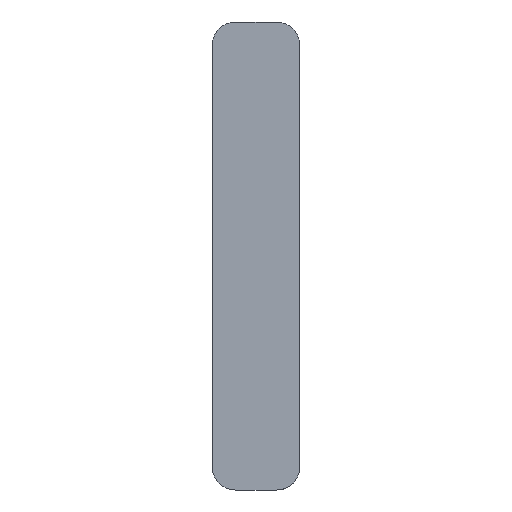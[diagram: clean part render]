
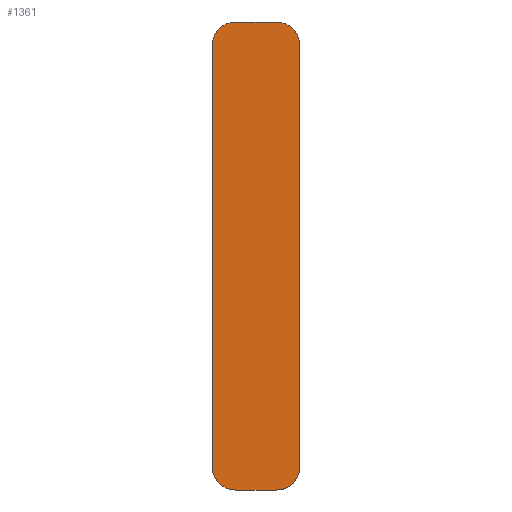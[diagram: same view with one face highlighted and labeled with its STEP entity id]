
A CAD part, left-side view. The second image highlights one B-rep face of the part: STEP entity #1361.
In plain terms, the highlighted planar face has unit normal (-1, 0, 0).
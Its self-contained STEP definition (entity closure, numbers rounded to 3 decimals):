
#624=PLANE('',#1322);
#630=CIRCLE('',#1291,4.);
#633=CIRCLE('',#1296,4.);
#640=CIRCLE('',#1305,4.);
#641=CIRCLE('',#1309,4.);
#712=ORIENTED_EDGE('',*,*,#908,.F.);
#713=ORIENTED_EDGE('',*,*,#911,.F.);
#714=ORIENTED_EDGE('',*,*,#914,.F.);
#715=ORIENTED_EDGE('',*,*,#917,.F.);
#716=ORIENTED_EDGE('',*,*,#884,.F.);
#717=ORIENTED_EDGE('',*,*,#888,.F.);
#718=ORIENTED_EDGE('',*,*,#892,.F.);
#719=ORIENTED_EDGE('',*,*,#895,.F.);
#772=VECTOR('',#1033,1.);
#776=VECTOR('',#1047,1.);
#785=VECTOR('',#1074,1.);
#789=VECTOR('',#1086,1.);
#807=LINE('',#1166,#772);
#811=LINE('',#1180,#776);
#820=LINE('',#1212,#785);
#824=LINE('',#1223,#789);
#839=VERTEX_POINT('',#1154);
#841=VERTEX_POINT('',#1157);
#843=VERTEX_POINT('',#1163);
#846=VERTEX_POINT('',#1171);
#848=VERTEX_POINT('',#1177);
#860=VERTEX_POINT('',#1203);
#862=VERTEX_POINT('',#1209);
#864=VERTEX_POINT('',#1215);
#884=EDGE_CURVE('',#839,#841,#630,.T.);
#888=EDGE_CURVE('',#843,#839,#807,.T.);
#892=EDGE_CURVE('',#846,#843,#633,.T.);
#895=EDGE_CURVE('',#848,#846,#811,.T.);
#908=EDGE_CURVE('',#860,#848,#640,.T.);
#911=EDGE_CURVE('',#862,#860,#820,.T.);
#914=EDGE_CURVE('',#864,#862,#641,.T.);
#917=EDGE_CURVE('',#841,#864,#824,.T.);
#960=EDGE_LOOP('',(#712,#713,#714,#715,#716,#717,#718,#719));
#1001=FACE_BOUND('',#960,.T.);
#1025=DIRECTION('',(1.,0.,0.));
#1026=DIRECTION('',(0.,0.,-4.));
#1033=DIRECTION('',(0.,-7.,0.));
#1040=DIRECTION('',(1.,0.,0.));
#1041=DIRECTION('',(0.,0.,-4.));
#1047=DIRECTION('',(0.,0.,72.));
#1067=DIRECTION('',(1.,0.,0.));
#1068=DIRECTION('',(0.,0.,-4.));
#1074=DIRECTION('',(0.,7.,0.));
#1079=DIRECTION('',(1.,0.,0.));
#1080=DIRECTION('',(0.,0.,-4.));
#1086=DIRECTION('',(0.,0.,-72.));
#1113=DIRECTION('',(-1.,0.,0.));
#1114=DIRECTION('',(0.,1.,0.));
#1154=CARTESIAN_POINT('',(755.,4.,40.));
#1157=CARTESIAN_POINT('',(755.,0.,36.));
#1158=CARTESIAN_POINT('',(755.,4.,36.));
#1163=CARTESIAN_POINT('',(755.,11.,40.));
#1166=CARTESIAN_POINT('',(755.,11.,40.));
#1171=CARTESIAN_POINT('',(755.,15.,36.));
#1174=CARTESIAN_POINT('',(755.,11.,36.));
#1177=CARTESIAN_POINT('',(755.,15.,-36.));
#1180=CARTESIAN_POINT('',(755.,15.,-36.));
#1203=CARTESIAN_POINT('',(755.,11.,-40.));
#1206=CARTESIAN_POINT('',(755.,11.,-36.));
#1209=CARTESIAN_POINT('',(755.,4.,-40.));
#1212=CARTESIAN_POINT('',(755.,4.,-40.));
#1215=CARTESIAN_POINT('',(755.,0.,-36.));
#1218=CARTESIAN_POINT('',(755.,4.,-36.));
#1223=CARTESIAN_POINT('',(755.,0.,36.));
#1253=CARTESIAN_POINT('',(755.,7.5,0.));
#1291=AXIS2_PLACEMENT_3D('',#1158,#1025,#1026);
#1296=AXIS2_PLACEMENT_3D('',#1174,#1040,#1041);
#1305=AXIS2_PLACEMENT_3D('',#1206,#1067,#1068);
#1309=AXIS2_PLACEMENT_3D('',#1218,#1079,#1080);
#1322=AXIS2_PLACEMENT_3D('',#1253,#1113,#1114);
#1361=ADVANCED_FACE('',(#1001),#624,.T.);
